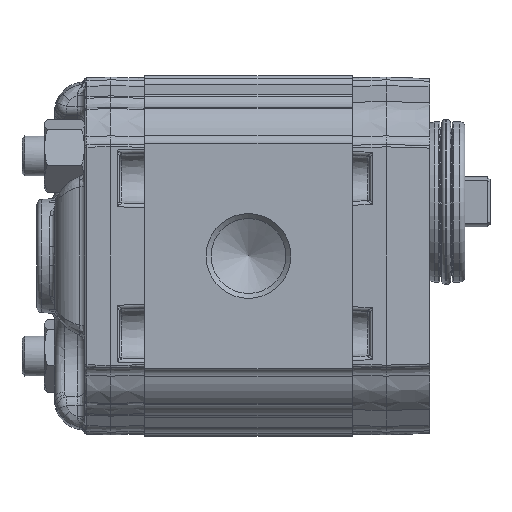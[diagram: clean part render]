
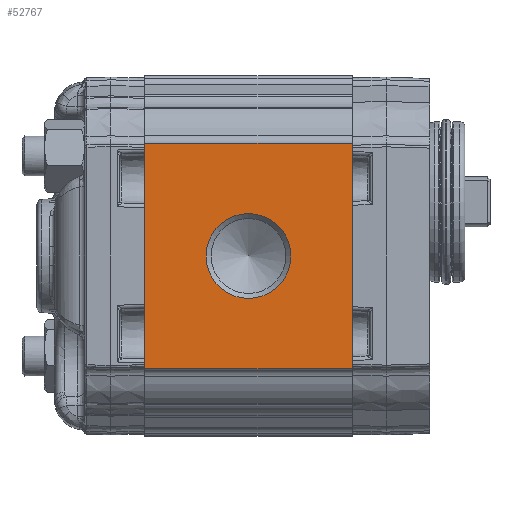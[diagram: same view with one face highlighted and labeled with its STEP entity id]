
A CAD part, left-side view. The second image highlights one B-rep face of the part: STEP entity #52767.
In plain terms, the highlighted planar face has unit normal (-1, 0, 0).
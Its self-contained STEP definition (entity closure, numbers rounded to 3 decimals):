
#3129=PLANE('',#56076);
#4025=LINE('',#93621,#5785);
#4035=LINE('',#93722,#5795);
#4054=LINE('',#93770,#5814);
#4055=LINE('',#93772,#5815);
#5785=VECTOR('',#62640,1000.);
#5795=VECTOR('',#62732,1000.);
#5814=VECTOR('',#62787,1000.);
#5815=VECTOR('',#62790,1000.);
#11341=ORIENTED_EDGE('',*,*,#20113,.F.);
#11342=ORIENTED_EDGE('',*,*,#20211,.T.);
#11343=ORIENTED_EDGE('',*,*,#20183,.T.);
#11344=ORIENTED_EDGE('',*,*,#20212,.T.);
#11345=ORIENTED_EDGE('',*,*,#20133,.F.);
#20113=EDGE_CURVE('',#24818,#24818,#27754,.F.);
#20133=EDGE_CURVE('',#24839,#24840,#4025,.T.);
#20183=EDGE_CURVE('',#24890,#24889,#4035,.T.);
#20211=EDGE_CURVE('',#24839,#24890,#4054,.T.);
#20212=EDGE_CURVE('',#24889,#24840,#4055,.F.);
#24818=VERTEX_POINT('',#93577);
#24839=VERTEX_POINT('',#93620);
#24840=VERTEX_POINT('',#93622);
#24889=VERTEX_POINT('',#93721);
#24890=VERTEX_POINT('',#93723);
#27754=CIRCLE('',#55980,8.475);
#30038=EDGE_LOOP('',(#11341));
#30039=EDGE_LOOP('',(#11342,#11343,#11344,#11345));
#32689=FACE_BOUND('',#30038,.T.);
#32690=FACE_BOUND('',#30039,.T.);
#52767=ADVANCED_FACE('',(#32689,#32690),#3129,.T.);
#55980=AXIS2_PLACEMENT_3D('',#93576,#62597,#62598);
#56076=AXIS2_PLACEMENT_3D('',#93799,#62833,#62834);
#62597=DIRECTION('',(1.,0.,0.));
#62598=DIRECTION('',(0.,0.,-1.));
#62640=DIRECTION('',(0.,0.,1.));
#62732=DIRECTION('',(0.,0.,1.));
#62787=DIRECTION('',(0.,-1.,0.));
#62790=DIRECTION('',(0.,-1.,0.));
#62833=DIRECTION('',(-1.,0.,0.));
#62834=DIRECTION('',(0.,0.,1.));
#93576=CARTESIAN_POINT('',(-33.,20.75,0.));
#93577=CARTESIAN_POINT('',(-33.,20.75,-8.475));
#93620=CARTESIAN_POINT('',(-33.,41.5,-22.5));
#93621=CARTESIAN_POINT('',(-33.,41.5,-21.711));
#93622=CARTESIAN_POINT('',(-33.,41.5,22.5));
#93721=CARTESIAN_POINT('',(-33.,0.,22.5));
#93722=CARTESIAN_POINT('',(-33.,0.,-21.711));
#93723=CARTESIAN_POINT('',(-33.,0.,-22.5));
#93770=CARTESIAN_POINT('',(-33.,41.5,-22.5));
#93772=CARTESIAN_POINT('',(-33.,41.5,22.5));
#93799=CARTESIAN_POINT('',(-33.,124.842,48.138));
